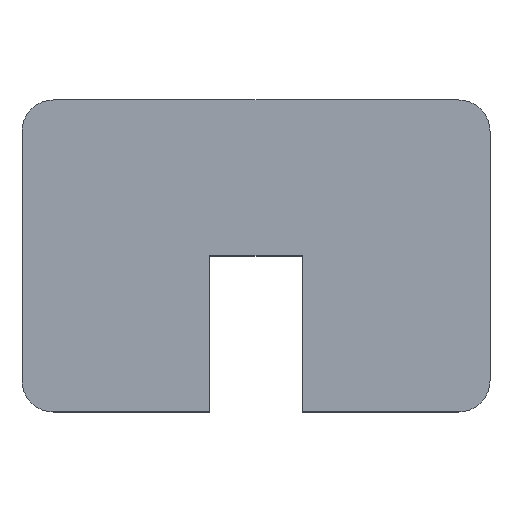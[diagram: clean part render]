
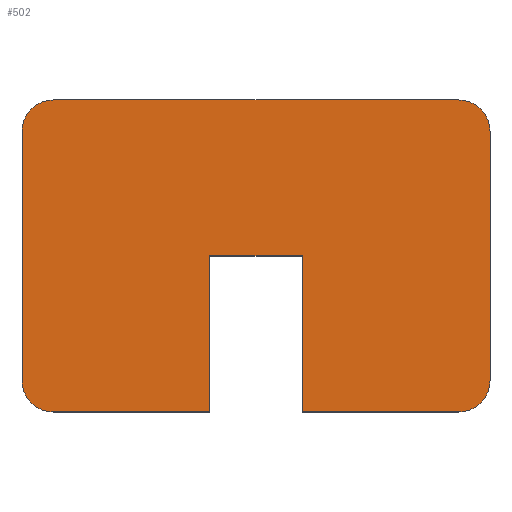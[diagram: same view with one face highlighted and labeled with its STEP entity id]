
A CAD part, top view. The second image highlights one B-rep face of the part: STEP entity #502.
In plain terms, the highlighted planar face has unit normal (0, 0, 1).
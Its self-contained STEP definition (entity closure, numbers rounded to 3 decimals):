
#63=CARTESIAN_POINT('Vertex',(5.,484.295,173.4)) ;
#77=CARTESIAN_POINT('Vertex',(35.,484.295,173.4)) ;
#80=CARTESIAN_POINT('Line Origine',(20.,484.295,173.4)) ;
#108=CARTESIAN_POINT('Vertex',(35.,384.295,173.4)) ;
#111=CARTESIAN_POINT('Line Origine',(35.,434.295,173.4)) ;
#134=CARTESIAN_POINT('Vertex',(-25.,384.295,173.4)) ;
#148=CARTESIAN_POINT('Vertex',(-25.,484.295,173.4)) ;
#151=CARTESIAN_POINT('Line Origine',(-25.,434.295,173.4)) ;
#168=CARTESIAN_POINT('Line Origine',(-10.,484.295,173.4)) ;
#198=CARTESIAN_POINT('Vertex',(5.,584.295,173.4)) ;
#201=CARTESIAN_POINT('Line Origine',(70.,584.295,173.4)) ;
#205=CARTESIAN_POINT('Vertex',(135.,584.295,173.4)) ;
#225=CARTESIAN_POINT('Axis2P3D Location',(135.,564.295,173.4)) ;
#229=CARTESIAN_POINT('Vertex',(155.,564.295,173.4)) ;
#251=CARTESIAN_POINT('Line Origine',(-60.,584.295,173.4)) ;
#255=CARTESIAN_POINT('Vertex',(-125.,584.295,173.4)) ;
#282=CARTESIAN_POINT('Axis2P3D Location',(-125.,564.295,173.4)) ;
#286=CARTESIAN_POINT('Vertex',(-145.,564.295,173.4)) ;
#313=CARTESIAN_POINT('Line Origine',(85.,384.295,173.4)) ;
#317=CARTESIAN_POINT('Vertex',(135.,384.295,173.4)) ;
#351=CARTESIAN_POINT('Line Origine',(155.,484.295,173.4)) ;
#355=CARTESIAN_POINT('Vertex',(155.,404.295,173.4)) ;
#375=CARTESIAN_POINT('Axis2P3D Location',(135.,404.295,173.4)) ;
#399=CARTESIAN_POINT('Line Origine',(-75.,384.295,173.4)) ;
#403=CARTESIAN_POINT('Vertex',(-125.,384.295,173.4)) ;
#429=CARTESIAN_POINT('Vertex',(-145.,404.295,173.4)) ;
#432=CARTESIAN_POINT('Line Origine',(-145.,484.295,173.4)) ;
#476=CARTESIAN_POINT('Axis2P3D Location',(0.,0.,173.4)) ;
#481=CARTESIAN_POINT('Axis2P3D Location',(-125.,404.295,173.4)) ;
#81=DIRECTION('Vector Direction',(1.,0.,0.)) ;
#112=DIRECTION('Vector Direction',(0.,-1.,0.)) ;
#152=DIRECTION('Vector Direction',(0.,-1.,0.)) ;
#169=DIRECTION('Vector Direction',(-1.,0.,0.)) ;
#202=DIRECTION('Vector Direction',(-1.,0.,0.)) ;
#226=DIRECTION('Axis2P3D Direction',(0.,0.,1.)) ;
#252=DIRECTION('Vector Direction',(1.,0.,0.)) ;
#283=DIRECTION('Axis2P3D Direction',(0.,0.,1.)) ;
#314=DIRECTION('Vector Direction',(1.,0.,0.)) ;
#352=DIRECTION('Vector Direction',(0.,1.,0.)) ;
#376=DIRECTION('Axis2P3D Direction',(-0.,0.,1.)) ;
#400=DIRECTION('Vector Direction',(-1.,0.,0.)) ;
#433=DIRECTION('Vector Direction',(0.,1.,0.)) ;
#477=DIRECTION('Axis2P3D Direction',(-0.,0.,1.)) ;
#478=DIRECTION('Axis2P3D XDirection',(1.,0.,0.)) ;
#482=DIRECTION('Axis2P3D Direction',(-0.,0.,1.)) ;
#227=AXIS2_PLACEMENT_3D('Circle Axis2P3D',#225,#226,$) ;
#284=AXIS2_PLACEMENT_3D('Circle Axis2P3D',#282,#283,$) ;
#377=AXIS2_PLACEMENT_3D('Circle Axis2P3D',#375,#376,$) ;
#479=AXIS2_PLACEMENT_3D('Plane Axis2P3D',#476,#477,#478) ;
#483=AXIS2_PLACEMENT_3D('Circle Axis2P3D',#481,#482,$) ;
#487=ORIENTED_EDGE('',*,*,#405,.T.) ;
#488=ORIENTED_EDGE('',*,*,#155,.T.) ;
#489=ORIENTED_EDGE('',*,*,#172,.T.) ;
#490=ORIENTED_EDGE('',*,*,#84,.T.) ;
#491=ORIENTED_EDGE('',*,*,#115,.T.) ;
#492=ORIENTED_EDGE('',*,*,#319,.T.) ;
#493=ORIENTED_EDGE('',*,*,#379,.F.) ;
#494=ORIENTED_EDGE('',*,*,#357,.T.) ;
#495=ORIENTED_EDGE('',*,*,#231,.F.) ;
#496=ORIENTED_EDGE('',*,*,#207,.T.) ;
#497=ORIENTED_EDGE('',*,*,#257,.T.) ;
#498=ORIENTED_EDGE('',*,*,#288,.F.) ;
#499=ORIENTED_EDGE('',*,*,#436,.T.) ;
#500=ORIENTED_EDGE('',*,*,#485,.F.) ;
#82=VECTOR('Line Direction',#81,1.) ;
#113=VECTOR('Line Direction',#112,1.) ;
#153=VECTOR('Line Direction',#152,1.) ;
#170=VECTOR('Line Direction',#169,1.) ;
#203=VECTOR('Line Direction',#202,1.) ;
#253=VECTOR('Line Direction',#252,1.) ;
#315=VECTOR('Line Direction',#314,1.) ;
#353=VECTOR('Line Direction',#352,1.) ;
#401=VECTOR('Line Direction',#400,1.) ;
#434=VECTOR('Line Direction',#433,1.) ;
#502=ADVANCED_FACE('PartBody',(#501),#480,.T.) ;
#228=CIRCLE('generated circle',#227,20.) ;
#285=CIRCLE('generated circle',#284,20.) ;
#378=CIRCLE('generated circle',#377,20.) ;
#484=CIRCLE('generated circle',#483,20.) ;
#84=EDGE_CURVE('',#64,#78,#83,.T.) ;
#115=EDGE_CURVE('',#78,#109,#114,.T.) ;
#155=EDGE_CURVE('',#135,#149,#154,.F.) ;
#172=EDGE_CURVE('',#149,#64,#171,.F.) ;
#207=EDGE_CURVE('',#206,#199,#204,.T.) ;
#231=EDGE_CURVE('',#206,#230,#228,.F.) ;
#257=EDGE_CURVE('',#199,#256,#254,.F.) ;
#288=EDGE_CURVE('',#287,#256,#285,.F.) ;
#319=EDGE_CURVE('',#109,#318,#316,.T.) ;
#357=EDGE_CURVE('',#356,#230,#354,.T.) ;
#379=EDGE_CURVE('',#356,#318,#378,.F.) ;
#405=EDGE_CURVE('',#404,#135,#402,.F.) ;
#436=EDGE_CURVE('',#287,#430,#435,.F.) ;
#485=EDGE_CURVE('',#404,#430,#484,.F.) ;
#486=EDGE_LOOP('',(#487,#488,#489,#490,#491,#492,#493,#494,#495,#496,#497,#498,#499,#500)) ;
#501=FACE_OUTER_BOUND('',#486,.T.) ;
#83=LINE('Line',#80,#82) ;
#114=LINE('Line',#111,#113) ;
#154=LINE('Line',#151,#153) ;
#171=LINE('Line',#168,#170) ;
#204=LINE('Line',#201,#203) ;
#254=LINE('Line',#251,#253) ;
#316=LINE('Line',#313,#315) ;
#354=LINE('Line',#351,#353) ;
#402=LINE('Line',#399,#401) ;
#435=LINE('Line',#432,#434) ;
#480=PLANE('Plane',#479) ;
#64=VERTEX_POINT('',#63) ;
#78=VERTEX_POINT('',#77) ;
#109=VERTEX_POINT('',#108) ;
#135=VERTEX_POINT('',#134) ;
#149=VERTEX_POINT('',#148) ;
#199=VERTEX_POINT('',#198) ;
#206=VERTEX_POINT('',#205) ;
#230=VERTEX_POINT('',#229) ;
#256=VERTEX_POINT('',#255) ;
#287=VERTEX_POINT('',#286) ;
#318=VERTEX_POINT('',#317) ;
#356=VERTEX_POINT('',#355) ;
#404=VERTEX_POINT('',#403) ;
#430=VERTEX_POINT('',#429) ;
